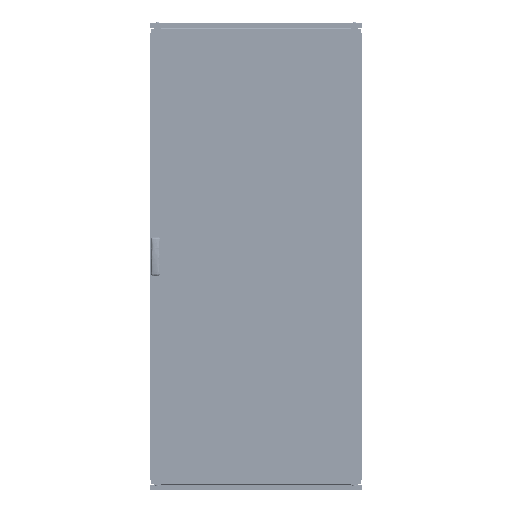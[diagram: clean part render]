
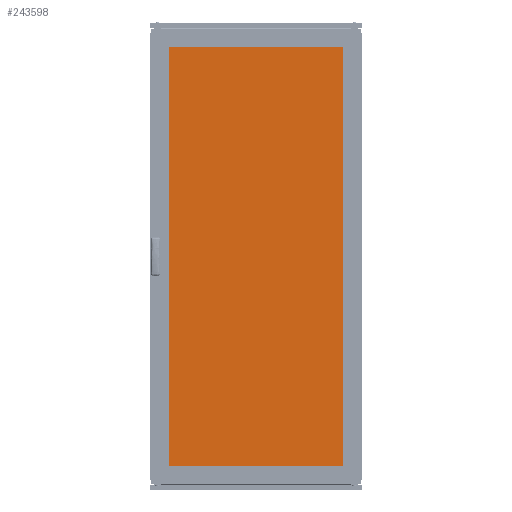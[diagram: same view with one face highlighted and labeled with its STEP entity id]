
A CAD part, top view. The second image highlights one B-rep face of the part: STEP entity #243598.
In plain terms, the highlighted planar face has unit normal (0, 0, 1).
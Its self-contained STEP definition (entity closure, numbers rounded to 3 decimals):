
#4376 = CARTESIAN_POINT ( 'NONE',  ( 430., 1010., 5. ) ) ;
#15636 = AXIS2_PLACEMENT_3D ( 'NONE', #54281, #165887, #242317 ) ;
#20596 = VERTEX_POINT ( 'NONE', #61923 ) ;
#54281 = CARTESIAN_POINT ( 'NONE',  ( 0., 0., 5. ) ) ;
#57507 = CARTESIAN_POINT ( 'NONE',  ( -430., -1010., 5. ) ) ;
#61923 = CARTESIAN_POINT ( 'NONE',  ( 430., -1010., 5. ) ) ;
#62483 = ORIENTED_EDGE ( 'NONE', *, *, #133973, .T. ) ;
#66460 = ORIENTED_EDGE ( 'NONE', *, *, #215959, .T. ) ;
#77572 = DIRECTION ( 'NONE',  ( 1., 0., 0. ) ) ;
#90067 = LINE ( 'NONE', #166477, #183701 ) ;
#91940 = FACE_OUTER_BOUND ( 'NONE', #118446, .T. ) ;
#96692 = DIRECTION ( 'NONE',  ( 0., 1., 0. ) ) ;
#97351 = DIRECTION ( 'NONE',  ( 0., -1., 0. ) ) ;
#100373 = LINE ( 'NONE', #156758, #128419 ) ;
#112167 = VERTEX_POINT ( 'NONE', #4376 ) ;
#118446 = EDGE_LOOP ( 'NONE', ( #198833, #219855, #62483, #66460 ) ) ;
#121360 = VECTOR ( 'NONE', #97351, 1000. ) ;
#127092 = PLANE ( 'NONE',  #15636 ) ;
#128419 = VECTOR ( 'NONE', #96692, 1000. ) ;
#133973 = EDGE_CURVE ( 'NONE', #217262, #197175, #170038, .T. ) ;
#156758 = CARTESIAN_POINT ( 'NONE',  ( 430., -1010., 5. ) ) ;
#165887 = DIRECTION ( 'NONE',  ( 0., 0., -1. ) ) ;
#166477 = CARTESIAN_POINT ( 'NONE',  ( -430., 1010., 5. ) ) ;
#170038 = LINE ( 'NONE', #231386, #121360 ) ;
#178692 = CARTESIAN_POINT ( 'NONE',  ( -430., 1010., 5. ) ) ;
#183701 = VECTOR ( 'NONE', #224081, 1000. ) ;
#192860 = LINE ( 'NONE', #57507, #224235 ) ;
#197175 = VERTEX_POINT ( 'NONE', #205886 ) ;
#198833 = ORIENTED_EDGE ( 'NONE', *, *, #204913, .T. ) ;
#204913 = EDGE_CURVE ( 'NONE', #20596, #112167, #100373, .T. ) ;
#205886 = CARTESIAN_POINT ( 'NONE',  ( -430., -1010., 5. ) ) ;
#215959 = EDGE_CURVE ( 'NONE', #197175, #20596, #192860, .T. ) ;
#217262 = VERTEX_POINT ( 'NONE', #178692 ) ;
#219855 = ORIENTED_EDGE ( 'NONE', *, *, #230098, .T. ) ;
#224081 = DIRECTION ( 'NONE',  ( -1., 0., 0. ) ) ;
#224235 = VECTOR ( 'NONE', #77572, 1000. ) ;
#230098 = EDGE_CURVE ( 'NONE', #112167, #217262, #90067, .T. ) ;
#231386 = CARTESIAN_POINT ( 'NONE',  ( -430., -1010., 5. ) ) ;
#242317 = DIRECTION ( 'NONE',  ( -1., 0., 0. ) ) ;
#243598 = ADVANCED_FACE ( 'NONE', ( #91940 ), #127092, .F. ) ;
